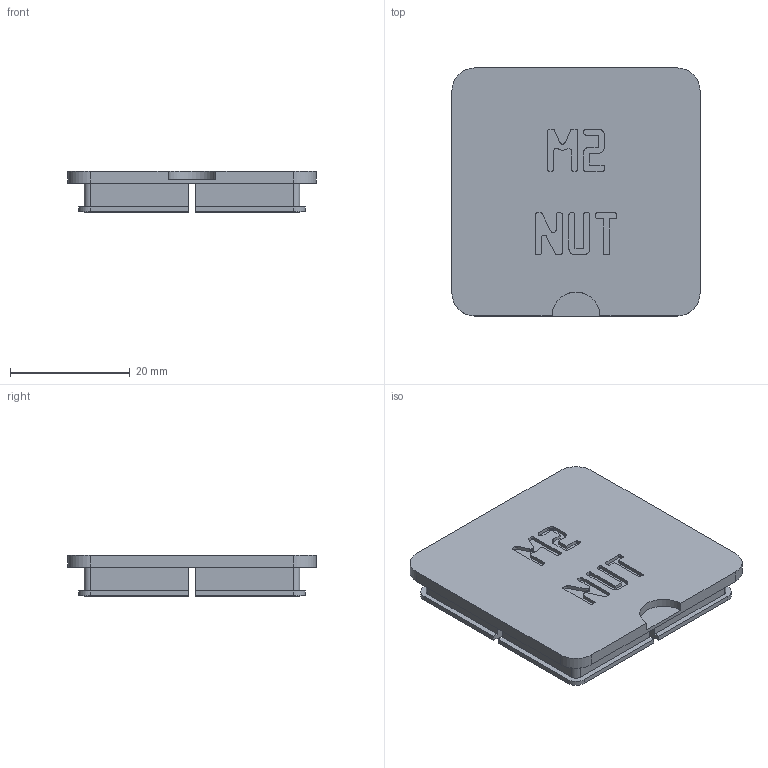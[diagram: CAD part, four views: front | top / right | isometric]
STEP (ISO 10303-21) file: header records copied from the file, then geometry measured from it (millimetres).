
FILE_DESCRIPTION(('Open CASCADE Model'),'2;1');
FILE_NAME('Open CASCADE Shape Model','2026-11-03T17:10:21',('Author'),( 'Open CASCADE'),'Open CASCADE STEP processor 8.0','build123d', 'Unknown');
FILE_SCHEMA(('AUTOMOTIVE_DESIGN { 1 0 10303 214 1 1 1 1 }'));
Length unit declared in the file: millimetre
Products named in the file (1): COMPOUND
Bounding box: 41.5 x 41.5 x 6.9 mm (x, y, z)
Volume: 4221.4 mm3; surface area: 5466.7 mm2
Topology: 1 solids, 1 shells, 553 faces, 1635 edges, 1090 vertices
Faces by surface type: plane 532, cylinder 21
Entity records: 39308 total; most frequent: CARTESIAN_POINT 6905, DIRECTION 5859, LINE 4657, VECTOR 4657, ORIENTED_EDGE 3270, PCURVE 3270, DEFINITIONAL_REPRESENTATION 3270, EDGE_CURVE 1635
